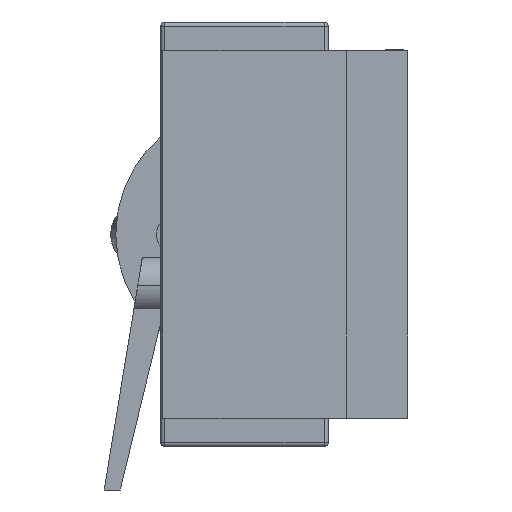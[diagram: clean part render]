
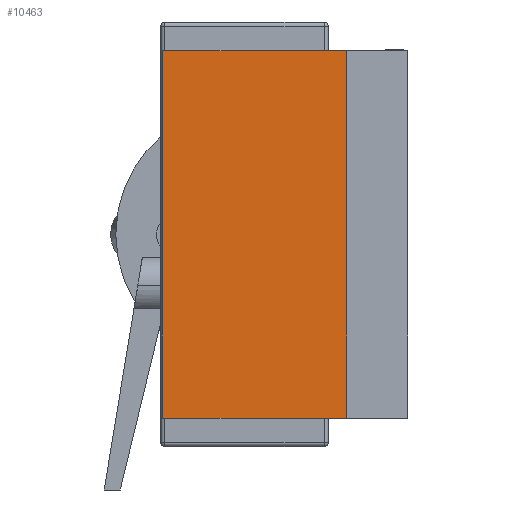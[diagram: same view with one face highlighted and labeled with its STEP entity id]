
A CAD part, left-side view. The second image highlights one B-rep face of the part: STEP entity #10463.
In plain terms, the highlighted planar face has unit normal (-1, 0, 0).
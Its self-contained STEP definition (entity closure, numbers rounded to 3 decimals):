
#318 = VERTEX_POINT ( 'NONE', #4376 ) ;
#1307 = DIRECTION ( 'NONE',  ( 0., -1., 0. ) ) ;
#2374 = FACE_OUTER_BOUND ( 'NONE', #5420, .T. ) ;
#2691 = VECTOR ( 'NONE', #3079, 1000. ) ;
#2740 = AXIS2_PLACEMENT_3D ( 'NONE', #8004, #17738, #6565 ) ;
#3079 = DIRECTION ( 'NONE',  ( 0., 1., 0. ) ) ;
#3502 = VECTOR ( 'NONE', #20181, 1000. ) ;
#4376 = CARTESIAN_POINT ( 'NONE',  ( -328.7, 161.469, 375. ) ) ;
#4665 = LINE ( 'NONE', #19514, #5379 ) ;
#5379 = VECTOR ( 'NONE', #16508, 1000. ) ;
#5420 = EDGE_LOOP ( 'NONE', ( #12975, #9834, #18949, #10353 ) ) ;
#5843 = LINE ( 'NONE', #13918, #8012 ) ;
#6565 = DIRECTION ( 'NONE',  ( 0., 0., -1. ) ) ;
#7728 = CARTESIAN_POINT ( 'NONE',  ( -328.7, 116.469, 420. ) ) ;
#7805 = VERTEX_POINT ( 'NONE', #16578 ) ;
#7837 = VERTEX_POINT ( 'NONE', #8732 ) ;
#8004 = CARTESIAN_POINT ( 'NONE',  ( -328.7, 138.969, 420. ) ) ;
#8012 = VECTOR ( 'NONE', #1307, 1000. ) ;
#8732 = CARTESIAN_POINT ( 'NONE',  ( -328.7, 116.469, 375. ) ) ;
#9131 = CARTESIAN_POINT ( 'NONE',  ( -328.7, 116.469, 465. ) ) ;
#9492 = CARTESIAN_POINT ( 'NONE',  ( -328.7, 138.969, 375. ) ) ;
#9834 = ORIENTED_EDGE ( 'NONE', *, *, #17842, .F. ) ;
#10353 = ORIENTED_EDGE ( 'NONE', *, *, #12318, .F. ) ;
#10463 = ADVANCED_FACE ( 'NONE', ( #2374 ), #17465, .F. ) ;
#11744 = VERTEX_POINT ( 'NONE', #9131 ) ;
#12318 = EDGE_CURVE ( 'NONE', #7837, #318, #14518, .T. ) ;
#12975 = ORIENTED_EDGE ( 'NONE', *, *, #19121, .F. ) ;
#13918 = CARTESIAN_POINT ( 'NONE',  ( -328.7, 138.969, 465. ) ) ;
#14105 = LINE ( 'NONE', #7728, #3502 ) ;
#14518 = LINE ( 'NONE', #9492, #2691 ) ;
#16508 = DIRECTION ( 'NONE',  ( 0., 0., 1. ) ) ;
#16578 = CARTESIAN_POINT ( 'NONE',  ( -328.7, 161.469, 465. ) ) ;
#16999 = EDGE_CURVE ( 'NONE', #318, #7805, #4665, .T. ) ;
#17465 = PLANE ( 'NONE',  #2740 ) ;
#17738 = DIRECTION ( 'NONE',  ( 1., 0., 0. ) ) ;
#17842 = EDGE_CURVE ( 'NONE', #7805, #11744, #5843, .T. ) ;
#18949 = ORIENTED_EDGE ( 'NONE', *, *, #16999, .F. ) ;
#19121 = EDGE_CURVE ( 'NONE', #11744, #7837, #14105, .T. ) ;
#19514 = CARTESIAN_POINT ( 'NONE',  ( -328.7, 161.469, 420. ) ) ;
#20181 = DIRECTION ( 'NONE',  ( 0., 0., -1. ) ) ;
